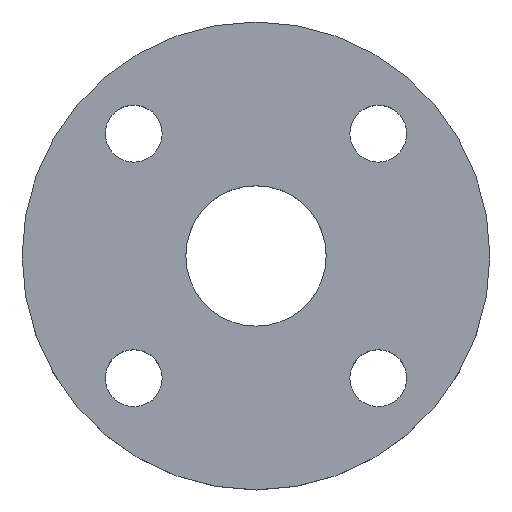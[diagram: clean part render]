
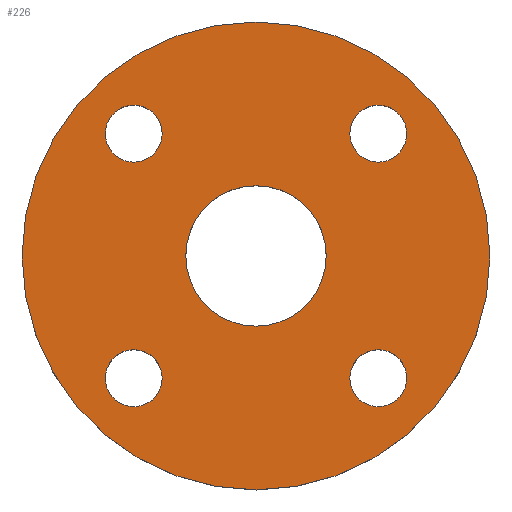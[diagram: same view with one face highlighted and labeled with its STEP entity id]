
A CAD part, top view. The second image highlights one B-rep face of the part: STEP entity #226.
In plain terms, the highlighted planar face has unit normal (0, 0, 1).
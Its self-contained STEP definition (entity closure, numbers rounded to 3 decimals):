
#4 = AXIS2_PLACEMENT_3D ( 'NONE', #260, #261, #262 ) ;
#8 = AXIS2_PLACEMENT_3D ( 'NONE', #326, #328, #329 ) ;
#9 = CIRCLE ( 'NONE', #178, 7. ) ;
#10 = CIRCLE ( 'NONE', #4, 7. ) ;
#18 = CIRCLE ( 'NONE', #169, 7. ) ;
#21 = CIRCLE ( 'NONE', #62, 7. ) ;
#25 = EDGE_CURVE ( 'NONE', #228, #188, #10, .T. ) ;
#31 = CIRCLE ( 'NONE', #45, 57.5 ) ;
#35 = CIRCLE ( 'NONE', #44, 57.5 ) ;
#44 = AXIS2_PLACEMENT_3D ( 'NONE', #343, #344, #345 ) ;
#45 = AXIS2_PLACEMENT_3D ( 'NONE', #331, #332, #333 ) ;
#57 = AXIS2_PLACEMENT_3D ( 'NONE', #312, #313, #314 ) ;
#59 = CIRCLE ( 'NONE', #8, 7. ) ;
#62 = AXIS2_PLACEMENT_3D ( 'NONE', #485, #486, #487 ) ;
#63 = CIRCLE ( 'NONE', #77, 7. ) ;
#70 = CIRCLE ( 'NONE', #57, 7. ) ;
#72 = EDGE_CURVE ( 'NONE', #200, #201, #9, .T. ) ;
#77 = AXIS2_PLACEMENT_3D ( 'NONE', #488, #489, #490 ) ;
#89 = VERTEX_POINT ( 'NONE', #310 ) ;
#90 = EDGE_CURVE ( 'NONE', #201, #200, #70, .T. ) ;
#93 = AXIS2_PLACEMENT_3D ( 'NONE', #442, #458, #459 ) ;
#95 = VERTEX_POINT ( 'NONE', #315 ) ;
#96 = ORIENTED_EDGE ( 'NONE', *, *, #25, .T. ) ;
#97 = ORIENTED_EDGE ( 'NONE', *, *, #191, .T. ) ;
#98 = ORIENTED_EDGE ( 'NONE', *, *, #346, .T. ) ;
#101 = AXIS2_PLACEMENT_3D ( 'NONE', #402, #403, #404 ) ;
#104 = ORIENTED_EDGE ( 'NONE', *, *, #144, .T. ) ;
#106 = ORIENTED_EDGE ( 'NONE', *, *, #352, .T. ) ;
#109 = ORIENTED_EDGE ( 'NONE', *, *, #90, .T. ) ;
#115 = ORIENTED_EDGE ( 'NONE', *, *, #215, .T. ) ;
#116 = ORIENTED_EDGE ( 'NONE', *, *, #482, .T. ) ;
#118 = EDGE_CURVE ( 'NONE', #95, #221, #59, .T. ) ;
#119 = ORIENTED_EDGE ( 'NONE', *, *, #503, .T. ) ;
#120 = ORIENTED_EDGE ( 'NONE', *, *, #72, .T. ) ;
#121 = ORIENTED_EDGE ( 'NONE', *, *, #118, .T. ) ;
#122 = EDGE_CURVE ( 'NONE', #89, #194, #31, .T. ) ;
#123 = AXIS2_PLACEMENT_3D ( 'NONE', #375, #376, #377 ) ;
#124 = CIRCLE ( 'NONE', #123, 7. ) ;
#144 = EDGE_CURVE ( 'NONE', #194, #89, #35, .T. ) ;
#150 = AXIS2_PLACEMENT_3D ( 'NONE', #363, #364, #366 ) ;
#151 = CIRCLE ( 'NONE', #93, 17.25 ) ;
#169 = AXIS2_PLACEMENT_3D ( 'NONE', #460, #461, #462 ) ;
#176 = CIRCLE ( 'NONE', #150, 17.25 ) ;
#178 = AXIS2_PLACEMENT_3D ( 'NONE', #289, #290, #292 ) ;
#179 = ORIENTED_EDGE ( 'NONE', *, *, #122, .T. ) ;
#188 = VERTEX_POINT ( 'NONE', #360 ) ;
#190 = VERTEX_POINT ( 'NONE', #362 ) ;
#191 = EDGE_CURVE ( 'NONE', #231, #190, #176, .T. ) ;
#194 = VERTEX_POINT ( 'NONE', #368 ) ;
#200 = VERTEX_POINT ( 'NONE', #371 ) ;
#201 = VERTEX_POINT ( 'NONE', #372 ) ;
#202 = EDGE_LOOP ( 'NONE', ( #106, #116 ) ) ;
#213 = EDGE_LOOP ( 'NONE', ( #96, #119 ) ) ;
#214 = EDGE_LOOP ( 'NONE', ( #104, #179 ) ) ;
#215 = EDGE_CURVE ( 'NONE', #221, #95, #124, .T. ) ;
#216 = VERTEX_POINT ( 'NONE', #378 ) ;
#218 = VERTEX_POINT ( 'NONE', #384 ) ;
#220 = EDGE_LOOP ( 'NONE', ( #115, #121 ) ) ;
#221 = VERTEX_POINT ( 'NONE', #386 ) ;
#226 = ADVANCED_FACE ( 'NONE', ( #395, #396, #397, #398, #399, #400 ), #401, .T. ) ;
#228 = VERTEX_POINT ( 'NONE', #406 ) ;
#231 = VERTEX_POINT ( 'NONE', #407 ) ;
#239 = EDGE_LOOP ( 'NONE', ( #109, #120 ) ) ;
#243 = EDGE_LOOP ( 'NONE', ( #98, #97 ) ) ;
#260 = CARTESIAN_POINT ( 'NONE',  ( 30.052, 30.052, 0. ) ) ;
#261 = DIRECTION ( 'NONE',  ( 0., 0., -1. ) ) ;
#262 = DIRECTION ( 'NONE',  ( -1., 0., 0. ) ) ;
#289 = CARTESIAN_POINT ( 'NONE',  ( -30.052, -30.052, 0. ) ) ;
#290 = DIRECTION ( 'NONE',  ( 0., 0., -1. ) ) ;
#292 = DIRECTION ( 'NONE',  ( -1., 0., 0. ) ) ;
#310 = CARTESIAN_POINT ( 'NONE',  ( -57.5, 0., 0. ) ) ;
#312 = CARTESIAN_POINT ( 'NONE',  ( -30.052, -30.052, 0. ) ) ;
#313 = DIRECTION ( 'NONE',  ( 0., 0., -1. ) ) ;
#314 = DIRECTION ( 'NONE',  ( -1., 0., 0. ) ) ;
#315 = CARTESIAN_POINT ( 'NONE',  ( -37.052, 30.052, 0. ) ) ;
#326 = CARTESIAN_POINT ( 'NONE',  ( -30.052, 30.052, 0. ) ) ;
#328 = DIRECTION ( 'NONE',  ( 0., 0., -1. ) ) ;
#329 = DIRECTION ( 'NONE',  ( -1., 0., 0. ) ) ;
#331 = CARTESIAN_POINT ( 'NONE',  ( 0., 0., 0. ) ) ;
#332 = DIRECTION ( 'NONE',  ( 0., 0., 1. ) ) ;
#333 = DIRECTION ( 'NONE',  ( 1., 0., 0. ) ) ;
#343 = CARTESIAN_POINT ( 'NONE',  ( 0., 0., 0. ) ) ;
#344 = DIRECTION ( 'NONE',  ( 0., 0., 1. ) ) ;
#345 = DIRECTION ( 'NONE',  ( 1., 0., 0. ) ) ;
#346 = EDGE_CURVE ( 'NONE', #190, #231, #151, .T. ) ;
#352 = EDGE_CURVE ( 'NONE', #216, #218, #18, .T. ) ;
#360 = CARTESIAN_POINT ( 'NONE',  ( 23.052, 30.052, 0. ) ) ;
#362 = CARTESIAN_POINT ( 'NONE',  ( -17.25, 0., 0. ) ) ;
#363 = CARTESIAN_POINT ( 'NONE',  ( 0., 0., 0. ) ) ;
#364 = DIRECTION ( 'NONE',  ( 0., 0., -1. ) ) ;
#366 = DIRECTION ( 'NONE',  ( -1., 0., 0. ) ) ;
#368 = CARTESIAN_POINT ( 'NONE',  ( 57.5, 0., 0. ) ) ;
#371 = CARTESIAN_POINT ( 'NONE',  ( -37.052, -30.052, 0. ) ) ;
#372 = CARTESIAN_POINT ( 'NONE',  ( -23.052, -30.052, 0. ) ) ;
#375 = CARTESIAN_POINT ( 'NONE',  ( -30.052, 30.052, 0. ) ) ;
#376 = DIRECTION ( 'NONE',  ( 0., 0., -1. ) ) ;
#377 = DIRECTION ( 'NONE',  ( -1., 0., 0. ) ) ;
#378 = CARTESIAN_POINT ( 'NONE',  ( 37.052, -30.052, 0. ) ) ;
#384 = CARTESIAN_POINT ( 'NONE',  ( 23.052, -30.052, 0. ) ) ;
#386 = CARTESIAN_POINT ( 'NONE',  ( -23.052, 30.052, 0. ) ) ;
#395 = FACE_BOUND ( 'NONE', #202, .T. ) ;
#396 = FACE_BOUND ( 'NONE', #239, .T. ) ;
#397 = FACE_BOUND ( 'NONE', #220, .T. ) ;
#398 = FACE_BOUND ( 'NONE', #213, .T. ) ;
#399 = FACE_BOUND ( 'NONE', #243, .T. ) ;
#400 = FACE_OUTER_BOUND ( 'NONE', #214, .T. ) ;
#401 = PLANE ( 'NONE',  #101 ) ;
#402 = CARTESIAN_POINT ( 'NONE',  ( 0., 0., 0. ) ) ;
#403 = DIRECTION ( 'NONE',  ( 0., 0., 1. ) ) ;
#404 = DIRECTION ( 'NONE',  ( 1., 0., 0. ) ) ;
#406 = CARTESIAN_POINT ( 'NONE',  ( 37.052, 30.052, 0. ) ) ;
#407 = CARTESIAN_POINT ( 'NONE',  ( 17.25, 0., 0. ) ) ;
#442 = CARTESIAN_POINT ( 'NONE',  ( 0., 0., 0. ) ) ;
#458 = DIRECTION ( 'NONE',  ( 0., 0., -1. ) ) ;
#459 = DIRECTION ( 'NONE',  ( -1., 0., 0. ) ) ;
#460 = CARTESIAN_POINT ( 'NONE',  ( 30.052, -30.052, 0. ) ) ;
#461 = DIRECTION ( 'NONE',  ( 0., 0., -1. ) ) ;
#462 = DIRECTION ( 'NONE',  ( -1., 0., 0. ) ) ;
#482 = EDGE_CURVE ( 'NONE', #218, #216, #21, .T. ) ;
#485 = CARTESIAN_POINT ( 'NONE',  ( 30.052, -30.052, 0. ) ) ;
#486 = DIRECTION ( 'NONE',  ( 0., 0., -1. ) ) ;
#487 = DIRECTION ( 'NONE',  ( -1., 0., 0. ) ) ;
#488 = CARTESIAN_POINT ( 'NONE',  ( 30.052, 30.052, 0. ) ) ;
#489 = DIRECTION ( 'NONE',  ( 0., 0., -1. ) ) ;
#490 = DIRECTION ( 'NONE',  ( -1., 0., 0. ) ) ;
#503 = EDGE_CURVE ( 'NONE', #188, #228, #63, .T. ) ;
